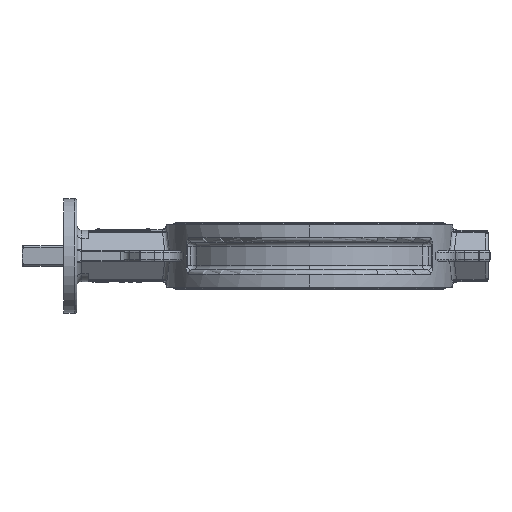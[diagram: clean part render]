
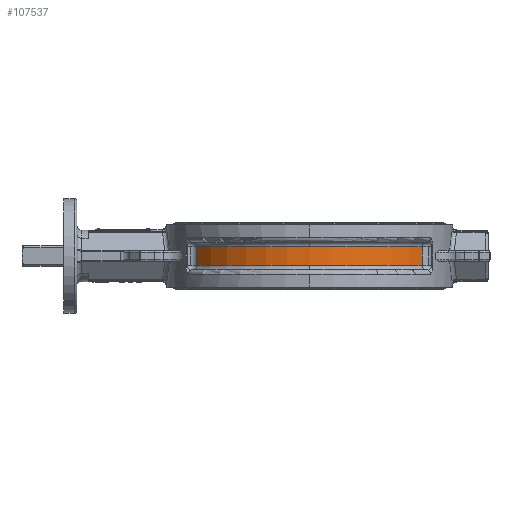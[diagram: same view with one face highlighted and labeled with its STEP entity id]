
A CAD part, left-side view. The second image highlights one B-rep face of the part: STEP entity #107537.
In plain terms, the highlighted cylindrical face has radius 147.4 mm (diameter 294.8 mm), a partial arc.
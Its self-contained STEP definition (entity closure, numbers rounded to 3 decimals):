
#1957 = CARTESIAN_POINT ( 'NONE',  ( 0., 0., 10.066 ) ) ;
#1959 = DIRECTION ( 'NONE',  ( 0., 0., -1. ) ) ;
#1962 = DIRECTION ( 'NONE',  ( -1., 0., 0. ) ) ;
#3148 = CARTESIAN_POINT ( 'NONE',  ( 0., 0., -10.066 ) ) ;
#3151 = DIRECTION ( 'NONE',  ( 0., 0., 1. ) ) ;
#3153 = DIRECTION ( 'NONE',  ( -1., 0., 0. ) ) ;
#3877 = LINE ( 'NONE', #3882, #17747 ) ;
#3882 = CARTESIAN_POINT ( 'NONE',  ( -81.203, 123.016, -15. ) ) ;
#3883 = DIRECTION ( 'NONE',  ( 0., 0., 1. ) ) ;
#4055 = CARTESIAN_POINT ( 'NONE',  ( 0., 0., -10.066 ) ) ;
#4056 = DIRECTION ( 'NONE',  ( 0., 0., 1. ) ) ;
#4057 = DIRECTION ( 'NONE',  ( -1., 0., 0. ) ) ;
#17572 = CIRCLE ( 'NONE', #17578, 147.4 ) ;
#17578 = AXIS2_PLACEMENT_3D ( 'NONE', #3148, #3151, #3153 ) ;
#17747 = VECTOR ( 'NONE', #3883, 1000. ) ;
#18092 = CIRCLE ( 'NONE', #18128, 147.4 ) ;
#18128 = AXIS2_PLACEMENT_3D ( 'NONE', #4055, #4056, #4057 ) ;
#18564 = CIRCLE ( 'NONE', #18582, 147.4 ) ;
#18582 = AXIS2_PLACEMENT_3D ( 'NONE', #35555, #35556, #35557 ) ;
#34118 = VERTEX_POINT ( 'NONE', #133254 ) ;
#34119 = VERTEX_POINT ( 'NONE', #133257 ) ;
#34120 = VERTEX_POINT ( 'NONE', #133260 ) ;
#34121 = VERTEX_POINT ( 'NONE', #133262 ) ;
#34122 = VERTEX_POINT ( 'NONE', #133265 ) ;
#34147 = VERTEX_POINT ( 'NONE', #133334 ) ;
#35555 = CARTESIAN_POINT ( 'NONE',  ( 0., 0., 10.066 ) ) ;
#35556 = DIRECTION ( 'NONE',  ( 0., 0., -1. ) ) ;
#35557 = DIRECTION ( 'NONE',  ( -1., 0., 0. ) ) ;
#37376 = ORIENTED_EDGE ( 'NONE', *, *, #142602, .T. ) ;
#37385 = ORIENTED_EDGE ( 'NONE', *, *, #142706, .T. ) ;
#37433 = ORIENTED_EDGE ( 'NONE', *, *, #142660, .F. ) ;
#37439 = ORIENTED_EDGE ( 'NONE', *, *, #142529, .T. ) ;
#37458 = ORIENTED_EDGE ( 'NONE', *, *, #142777, .T. ) ;
#37465 = ORIENTED_EDGE ( 'NONE', *, *, #142442, .T. ) ;
#38940 = EDGE_LOOP ( 'NONE', ( #37465, #37458, #37439, #37433, #37385, #37376 ) ) ;
#46815 = VECTOR ( 'NONE', #148589, 1000. ) ;
#46916 = CIRCLE ( 'NONE', #46919, 147.4 ) ;
#46919 = AXIS2_PLACEMENT_3D ( 'NONE', #1957, #1959, #1962 ) ;
#64424 = AXIS2_PLACEMENT_3D ( 'NONE', #69493, #69489, #69496 ) ;
#69489 = DIRECTION ( 'NONE',  ( 0., 0., 1. ) ) ;
#69490 = FACE_OUTER_BOUND ( 'NONE', #38940, .T. ) ;
#69493 = CARTESIAN_POINT ( 'NONE',  ( 0., 0., -15. ) ) ;
#69495 = CYLINDRICAL_SURFACE ( 'NONE', #64424, 147.4 ) ;
#69496 = DIRECTION ( 'NONE',  ( 1., 0., 0. ) ) ;
#107537 = ADVANCED_FACE ( 'NONE', ( #69490 ), #69495, .T. ) ;
#133254 = CARTESIAN_POINT ( 'NONE',  ( -81.203, 123.016, 10.066 ) ) ;
#133257 = CARTESIAN_POINT ( 'NONE',  ( -147.4, 0., -10.066 ) ) ;
#133260 = CARTESIAN_POINT ( 'NONE',  ( -81.203, 123.016, -10.066 ) ) ;
#133262 = CARTESIAN_POINT ( 'NONE',  ( -147.4, 0., 10.066 ) ) ;
#133265 = CARTESIAN_POINT ( 'NONE',  ( -81.203, -123.016, -10.066 ) ) ;
#133334 = CARTESIAN_POINT ( 'NONE',  ( -81.203, -123.016, 10.066 ) ) ;
#142442 = EDGE_CURVE ( 'NONE', #34122, #34147, #148514, .T. ) ;
#142529 = EDGE_CURVE ( 'NONE', #34121, #34118, #46916, .T. ) ;
#142602 = EDGE_CURVE ( 'NONE', #34119, #34122, #17572, .T. ) ;
#142660 = EDGE_CURVE ( 'NONE', #34120, #34118, #3877, .T. ) ;
#142706 = EDGE_CURVE ( 'NONE', #34120, #34119, #18092, .T. ) ;
#142777 = EDGE_CURVE ( 'NONE', #34147, #34121, #18564, .T. ) ;
#148512 = CARTESIAN_POINT ( 'NONE',  ( -81.203, -123.016, -15. ) ) ;
#148514 = LINE ( 'NONE', #148512, #46815 ) ;
#148589 = DIRECTION ( 'NONE',  ( 0., 0., 1. ) ) ;
